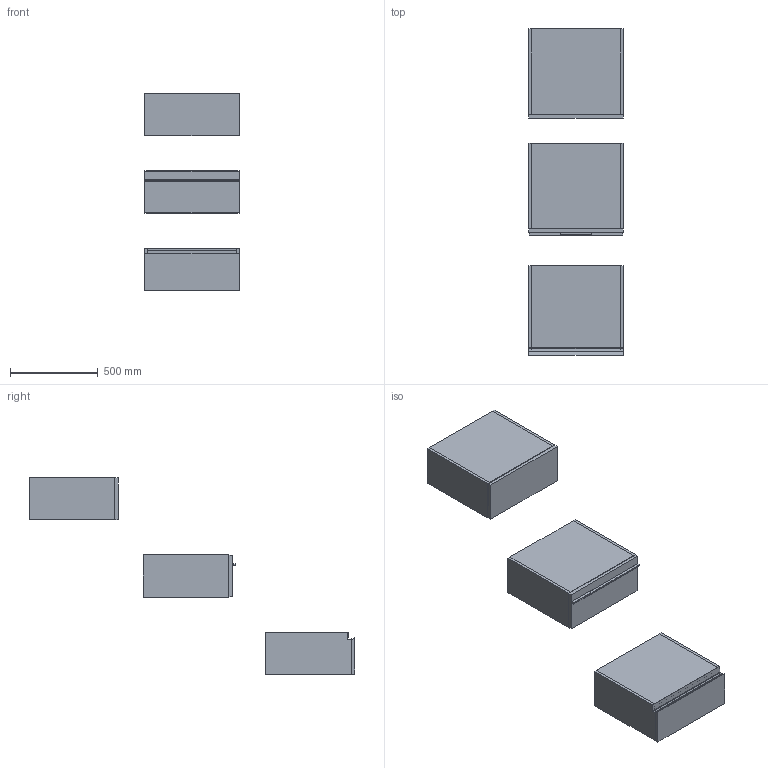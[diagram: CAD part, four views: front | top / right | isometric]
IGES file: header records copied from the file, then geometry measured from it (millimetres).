
Start section: Data from Parasolid IGES Translator 19.0.9, Copyright(c) 2006 Siemens PL M Software. All Rights Reserved.
Global section: file name: noorth-SI-H 24 D 51 W 54_8310.igs; native system: By Siemens PLM Incorporated; preprocessor: XPlus GENERIC/IGES 19.0.9; author: Noname; organization: Noname; date: 20200530.120821; units: metre
Bounding box: 540.01 x 1857.1 x 1120 mm (x, y, z)
Volume: 42744673.6 mm3; surface area: 6238786.5 mm2
Topology: 20 solids, 20 shells, 178 faces, 382 edges, 234 vertices
Faces by surface type: plane 134, extrusion 16, bspline 16, cylinder 12
